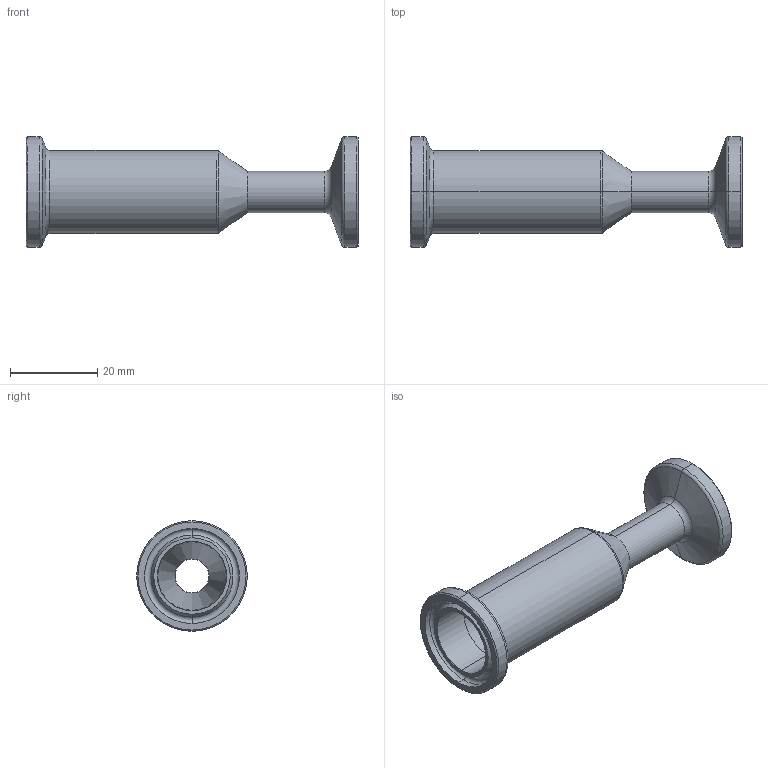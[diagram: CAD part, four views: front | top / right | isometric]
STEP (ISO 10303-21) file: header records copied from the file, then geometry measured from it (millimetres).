
FILE_DESCRIPTION (( 'STEP AP214' ), '1' );
FILE_NAME ('TEG31SCC6I.75x.375.STEP', '2016-05-29T14:38:15', ( 'eran' ), ( '' ), 'SwSTEP 2.0', 'SolidWorks 2016', '' );
FILE_SCHEMA (( 'AUTOMOTIVE_DESIGN' ));
Length unit declared in the file: millimetre
Products named in the file (1): TEG31SCC6I.75x.375
Bounding box: 76.2 x 25.4 x 25.4 mm (x, y, z)
Volume: 11313 mm3; surface area: 7949.4 mm2
Topology: 1 solids, 1 shells, 54 faces, 108 edges, 58 vertices
Faces by surface type: cone 18, torus 16, cylinder 16, plane 4
Entity records: 1428 total; most frequent: DIRECTION 292, CARTESIAN_POINT 221, ORIENTED_EDGE 216, AXIS2_PLACEMENT_3D 129, EDGE_CURVE 108, CIRCLE 74, EDGE_LOOP 58, VERTEX_POINT 58
